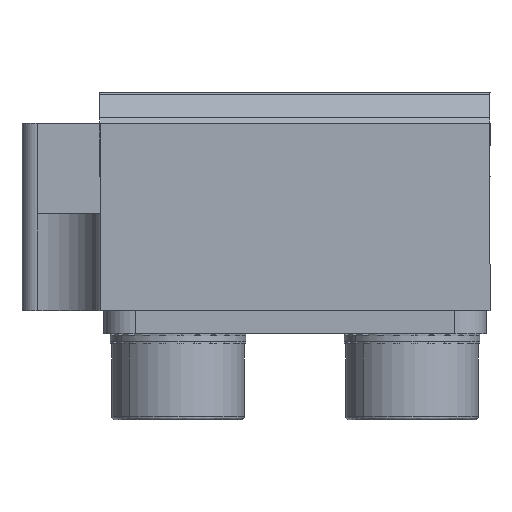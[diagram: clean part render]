
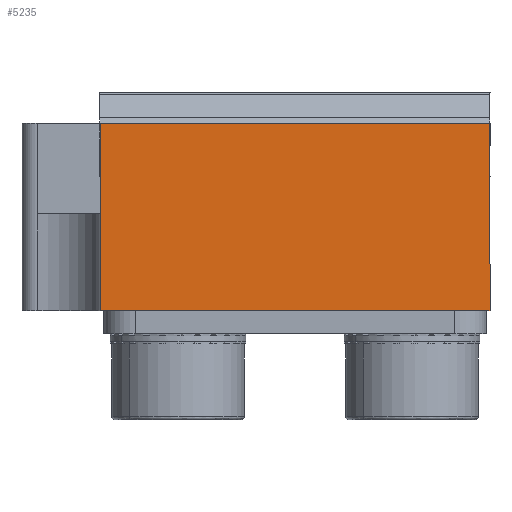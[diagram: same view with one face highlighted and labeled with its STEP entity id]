
A CAD part, front view. The second image highlights one B-rep face of the part: STEP entity #5235.
In plain terms, the highlighted planar face has unit normal (0, -1, 0).
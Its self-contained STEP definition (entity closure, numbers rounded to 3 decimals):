
#964 = DIRECTION ( 'NONE',  ( 0., -1., 0. ) ) ;
#1001 = CARTESIAN_POINT ( 'NONE',  ( -69.155, -5.223, 17.866 ) ) ;
#1577 = DIRECTION ( 'NONE',  ( -1., 0., 0. ) ) ;
#2091 = VECTOR ( 'NONE', #25367, 1000. ) ;
#3230 = ORIENTED_EDGE ( 'NONE', *, *, #13198, .T. ) ;
#4419 = LINE ( 'NONE', #1001, #11189 ) ;
#5235 = ADVANCED_FACE ( 'NONE', ( #9995 ), #23795, .T. ) ;
#5604 = CARTESIAN_POINT ( 'NONE',  ( -56.655, -5.223, 23.866 ) ) ;
#7326 = EDGE_LOOP ( 'NONE', ( #3230, #34127, #22470, #9024 ) ) ;
#7395 = LINE ( 'NONE', #18774, #22648 ) ;
#8665 = EDGE_CURVE ( 'NONE', #31936, #12467, #7395, .T. ) ;
#9024 = ORIENTED_EDGE ( 'NONE', *, *, #8665, .T. ) ;
#9046 = CARTESIAN_POINT ( 'NONE',  ( -56.655, -5.223, 29.866 ) ) ;
#9754 = LINE ( 'NONE', #31115, #2091 ) ;
#9995 = FACE_OUTER_BOUND ( 'NONE', #7326, .T. ) ;
#10080 = EDGE_CURVE ( 'NONE', #12966, #28578, #4419, .T. ) ;
#11189 = VECTOR ( 'NONE', #23953, 1000. ) ;
#11413 = DIRECTION ( 'NONE',  ( 0., 0., -1. ) ) ;
#12467 = VERTEX_POINT ( 'NONE', #26540 ) ;
#12966 = VERTEX_POINT ( 'NONE', #29777 ) ;
#13198 = EDGE_CURVE ( 'NONE', #12467, #12966, #9754, .T. ) ;
#13892 = VECTOR ( 'NONE', #11413, 1000. ) ;
#18155 = CARTESIAN_POINT ( 'NONE',  ( -81.655, -5.223, 29.866 ) ) ;
#18774 = CARTESIAN_POINT ( 'NONE',  ( -69.155, -5.223, 29.866 ) ) ;
#18840 = EDGE_CURVE ( 'NONE', #31936, #28578, #21506, .T. ) ;
#21020 = DIRECTION ( 'NONE',  ( 0., 0., -1. ) ) ;
#21506 = LINE ( 'NONE', #5604, #13892 ) ;
#22470 = ORIENTED_EDGE ( 'NONE', *, *, #18840, .F. ) ;
#22648 = VECTOR ( 'NONE', #1577, 1000. ) ;
#23795 = PLANE ( 'NONE',  #25873 ) ;
#23953 = DIRECTION ( 'NONE',  ( 1., 0., 0. ) ) ;
#25367 = DIRECTION ( 'NONE',  ( 0., 0., -1. ) ) ;
#25873 = AXIS2_PLACEMENT_3D ( 'NONE', #18155, #964, #21020 ) ;
#26540 = CARTESIAN_POINT ( 'NONE',  ( -81.655, -5.223, 29.866 ) ) ;
#28578 = VERTEX_POINT ( 'NONE', #32952 ) ;
#29777 = CARTESIAN_POINT ( 'NONE',  ( -81.655, -5.223, 17.866 ) ) ;
#31115 = CARTESIAN_POINT ( 'NONE',  ( -81.655, -5.223, 23.866 ) ) ;
#31936 = VERTEX_POINT ( 'NONE', #9046 ) ;
#32952 = CARTESIAN_POINT ( 'NONE',  ( -56.655, -5.223, 17.866 ) ) ;
#34127 = ORIENTED_EDGE ( 'NONE', *, *, #10080, .T. ) ;
